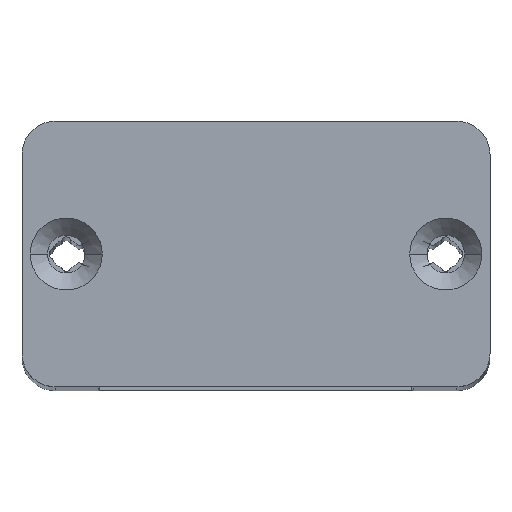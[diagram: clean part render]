
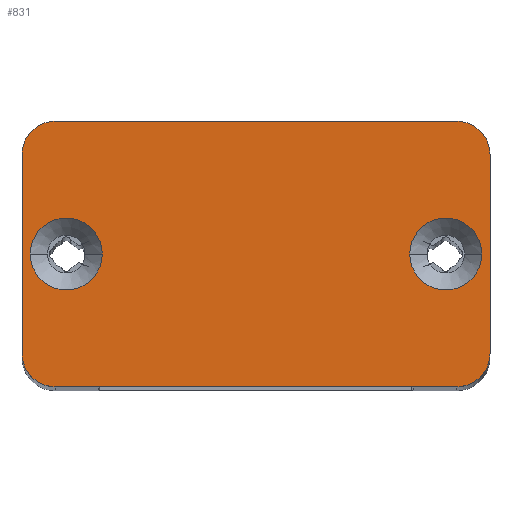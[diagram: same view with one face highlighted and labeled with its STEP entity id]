
A CAD part, top view. The second image highlights one B-rep face of the part: STEP entity #831.
In plain terms, the highlighted planar face has unit normal (0, 0, 1).
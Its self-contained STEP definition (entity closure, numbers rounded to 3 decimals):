
#14 = ORIENTED_EDGE ( 'NONE', *, *, #6859, .T. ) ;
#156 = CARTESIAN_POINT ( 'NONE',  ( 18.15, 12., 2. ) ) ;
#545 = CARTESIAN_POINT ( 'NONE',  ( -18.15, -9., 2. ) ) ;
#679 = CARTESIAN_POINT ( 'NONE',  ( 21.15, -12., 2. ) ) ;
#745 = VERTEX_POINT ( 'NONE', #2476 ) ;
#765 = CARTESIAN_POINT ( 'NONE',  ( 17.15, 0., 2. ) ) ;
#781 = FACE_BOUND ( 'NONE', #3856, .T. ) ;
#828 = VERTEX_POINT ( 'NONE', #6970 ) ;
#831 = ADVANCED_FACE ( 'NONE', ( #781, #1426, #5799 ), #7587, .T. ) ;
#928 = CARTESIAN_POINT ( 'NONE',  ( -21.15, 9., 2. ) ) ;
#936 = CIRCLE ( 'NONE', #3763, 3. ) ;
#943 = CARTESIAN_POINT ( 'NONE',  ( 18.15, 12., 2. ) ) ;
#981 = CARTESIAN_POINT ( 'NONE',  ( -20.4, 0., 2. ) ) ;
#1121 = DIRECTION ( 'NONE',  ( 1., 0., 0. ) ) ;
#1360 = VERTEX_POINT ( 'NONE', #4597 ) ;
#1396 = VERTEX_POINT ( 'NONE', #7191 ) ;
#1426 = FACE_BOUND ( 'NONE', #2780, .T. ) ;
#1521 = AXIS2_PLACEMENT_3D ( 'NONE', #6661, #5930, #1121 ) ;
#1525 = ORIENTED_EDGE ( 'NONE', *, *, #2934, .T. ) ;
#1592 = ORIENTED_EDGE ( 'NONE', *, *, #2657, .T. ) ;
#1641 = DIRECTION ( 'NONE',  ( 1., 0., 0. ) ) ;
#1650 = AXIS2_PLACEMENT_3D ( 'NONE', #6457, #4472, #7684 ) ;
#1839 = ORIENTED_EDGE ( 'NONE', *, *, #3686, .T. ) ;
#1864 = DIRECTION ( 'NONE',  ( 0., -1., 0. ) ) ;
#1885 = CIRCLE ( 'NONE', #3687, 3.25 ) ;
#1942 = DIRECTION ( 'NONE',  ( 1., 0., 0. ) ) ;
#2045 = AXIS2_PLACEMENT_3D ( 'NONE', #5217, #4568, #7043 ) ;
#2246 = ORIENTED_EDGE ( 'NONE', *, *, #5863, .T. ) ;
#2262 = EDGE_CURVE ( 'NONE', #4050, #6164, #1885, .T. ) ;
#2375 = VERTEX_POINT ( 'NONE', #928 ) ;
#2392 = DIRECTION ( 'NONE',  ( 1., 0., 0. ) ) ;
#2476 = CARTESIAN_POINT ( 'NONE',  ( -13.9, 0., 2. ) ) ;
#2657 = EDGE_CURVE ( 'NONE', #2821, #1360, #6296, .T. ) ;
#2780 = EDGE_LOOP ( 'NONE', ( #4999, #7535 ) ) ;
#2808 = EDGE_CURVE ( 'NONE', #3214, #745, #3979, .T. ) ;
#2812 = CIRCLE ( 'NONE', #6312, 3. ) ;
#2821 = VERTEX_POINT ( 'NONE', #3289 ) ;
#2934 = EDGE_CURVE ( 'NONE', #1360, #5944, #5137, .T. ) ;
#3203 = ORIENTED_EDGE ( 'NONE', *, *, #2808, .F. ) ;
#3214 = VERTEX_POINT ( 'NONE', #981 ) ;
#3275 = DIRECTION ( 'NONE',  ( 0., 0., 1. ) ) ;
#3289 = CARTESIAN_POINT ( 'NONE',  ( 21.15, -9., 2. ) ) ;
#3482 = EDGE_CURVE ( 'NONE', #745, #3214, #5410, .T. ) ;
#3509 = DIRECTION ( 'NONE',  ( 0., 0., 1. ) ) ;
#3561 = DIRECTION ( 'NONE',  ( 0., 0., 1. ) ) ;
#3686 = EDGE_CURVE ( 'NONE', #1396, #2821, #2812, .T. ) ;
#3687 = AXIS2_PLACEMENT_3D ( 'NONE', #765, #5011, #1942 ) ;
#3763 = AXIS2_PLACEMENT_3D ( 'NONE', #545, #7190, #1641 ) ;
#3812 = EDGE_CURVE ( 'NONE', #828, #1396, #4279, .T. ) ;
#3856 = EDGE_LOOP ( 'NONE', ( #6426, #3203 ) ) ;
#3931 = CARTESIAN_POINT ( 'NONE',  ( -18.15, 9., 2. ) ) ;
#3979 = CIRCLE ( 'NONE', #1650, 3.25 ) ;
#3994 = AXIS2_PLACEMENT_3D ( 'NONE', #3931, #3275, #5760 ) ;
#4050 = VERTEX_POINT ( 'NONE', #7890 ) ;
#4101 = EDGE_LOOP ( 'NONE', ( #6906, #5674, #5960, #1839, #1592, #1525, #14, #2246 ) ) ;
#4117 = VECTOR ( 'NONE', #6797, 1000. ) ;
#4133 = CARTESIAN_POINT ( 'NONE',  ( 17.15, 0., 2. ) ) ;
#4168 = CARTESIAN_POINT ( 'NONE',  ( -21.15, -9., 2. ) ) ;
#4279 = LINE ( 'NONE', #6145, #4117 ) ;
#4472 = DIRECTION ( 'NONE',  ( 0., 0., 1. ) ) ;
#4546 = AXIS2_PLACEMENT_3D ( 'NONE', #4133, #3561, #2392 ) ;
#4568 = DIRECTION ( 'NONE',  ( 0., 0., 1. ) ) ;
#4579 = DIRECTION ( 'NONE',  ( 1., 0., 0. ) ) ;
#4597 = CARTESIAN_POINT ( 'NONE',  ( 21.15, 9., 2. ) ) ;
#4647 = VECTOR ( 'NONE', #1864, 1000. ) ;
#4895 = CARTESIAN_POINT ( 'NONE',  ( 20.4, 0., 2. ) ) ;
#4921 = VERTEX_POINT ( 'NONE', #4168 ) ;
#4999 = ORIENTED_EDGE ( 'NONE', *, *, #7357, .F. ) ;
#5011 = DIRECTION ( 'NONE',  ( 0., 0., 1. ) ) ;
#5137 = CIRCLE ( 'NONE', #1521, 3. ) ;
#5217 = CARTESIAN_POINT ( 'NONE',  ( -17.15, 0., 2. ) ) ;
#5242 = VERTEX_POINT ( 'NONE', #7734 ) ;
#5304 = VECTOR ( 'NONE', #6912, 1000. ) ;
#5410 = CIRCLE ( 'NONE', #2045, 3.25 ) ;
#5421 = CARTESIAN_POINT ( 'NONE',  ( 18.15, -9., 2. ) ) ;
#5667 = CARTESIAN_POINT ( 'NONE',  ( -21.15, -12., 2. ) ) ;
#5674 = ORIENTED_EDGE ( 'NONE', *, *, #6959, .T. ) ;
#5740 = LINE ( 'NONE', #156, #5304 ) ;
#5760 = DIRECTION ( 'NONE',  ( 1., 0., 0. ) ) ;
#5799 = FACE_OUTER_BOUND ( 'NONE', #4101, .T. ) ;
#5840 = DIRECTION ( 'NONE',  ( 0., 0., 1. ) ) ;
#5863 = EDGE_CURVE ( 'NONE', #5242, #2375, #5937, .T. ) ;
#5930 = DIRECTION ( 'NONE',  ( 0., 0., 1. ) ) ;
#5937 = CIRCLE ( 'NONE', #3994, 3. ) ;
#5944 = VERTEX_POINT ( 'NONE', #943 ) ;
#5960 = ORIENTED_EDGE ( 'NONE', *, *, #3812, .T. ) ;
#6145 = CARTESIAN_POINT ( 'NONE',  ( 21.15, -12., 2. ) ) ;
#6164 = VERTEX_POINT ( 'NONE', #4895 ) ;
#6178 = DIRECTION ( 'NONE',  ( 0., 1., 0. ) ) ;
#6238 = EDGE_CURVE ( 'NONE', #2375, #4921, #7417, .T. ) ;
#6296 = LINE ( 'NONE', #679, #7061 ) ;
#6312 = AXIS2_PLACEMENT_3D ( 'NONE', #5421, #3509, #6714 ) ;
#6426 = ORIENTED_EDGE ( 'NONE', *, *, #3482, .F. ) ;
#6457 = CARTESIAN_POINT ( 'NONE',  ( -17.15, 0., 2. ) ) ;
#6565 = AXIS2_PLACEMENT_3D ( 'NONE', #7671, #5840, #4579 ) ;
#6620 = CIRCLE ( 'NONE', #4546, 3.25 ) ;
#6661 = CARTESIAN_POINT ( 'NONE',  ( 18.15, 9., 2. ) ) ;
#6714 = DIRECTION ( 'NONE',  ( 1., 0., 0. ) ) ;
#6797 = DIRECTION ( 'NONE',  ( 1., 0., 0. ) ) ;
#6859 = EDGE_CURVE ( 'NONE', #5944, #5242, #5740, .T. ) ;
#6906 = ORIENTED_EDGE ( 'NONE', *, *, #6238, .T. ) ;
#6912 = DIRECTION ( 'NONE',  ( -1., 0., 0. ) ) ;
#6959 = EDGE_CURVE ( 'NONE', #4921, #828, #936, .T. ) ;
#6970 = CARTESIAN_POINT ( 'NONE',  ( -18.15, -12., 2. ) ) ;
#7043 = DIRECTION ( 'NONE',  ( 1., 0., 0. ) ) ;
#7061 = VECTOR ( 'NONE', #6178, 1000. ) ;
#7190 = DIRECTION ( 'NONE',  ( 0., 0., 1. ) ) ;
#7191 = CARTESIAN_POINT ( 'NONE',  ( 18.15, -12., 2. ) ) ;
#7357 = EDGE_CURVE ( 'NONE', #6164, #4050, #6620, .T. ) ;
#7417 = LINE ( 'NONE', #5667, #4647 ) ;
#7535 = ORIENTED_EDGE ( 'NONE', *, *, #2262, .F. ) ;
#7587 = PLANE ( 'NONE',  #6565 ) ;
#7671 = CARTESIAN_POINT ( 'NONE',  ( 18.15, 9., 2. ) ) ;
#7684 = DIRECTION ( 'NONE',  ( 1., 0., 0. ) ) ;
#7734 = CARTESIAN_POINT ( 'NONE',  ( -18.15, 12., 2. ) ) ;
#7890 = CARTESIAN_POINT ( 'NONE',  ( 13.9, 0., 2. ) ) ;
